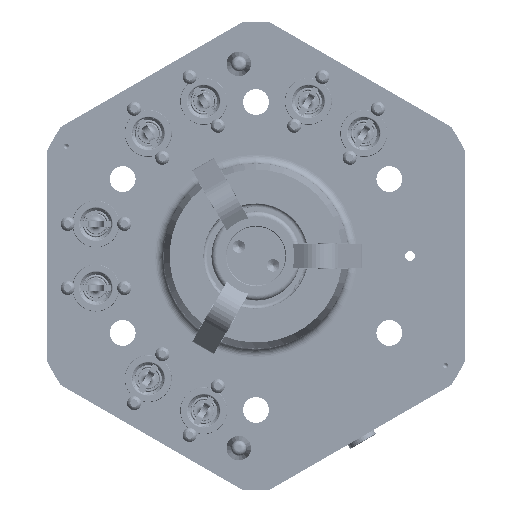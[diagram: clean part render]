
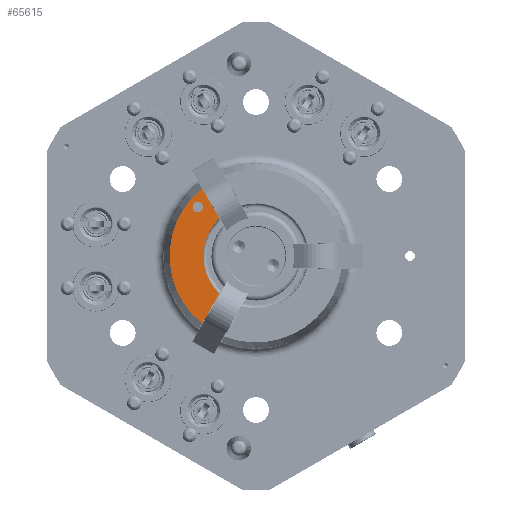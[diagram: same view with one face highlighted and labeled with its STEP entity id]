
A CAD part, front view. The second image highlights one B-rep face of the part: STEP entity #65615.
In plain terms, the highlighted planar face has unit normal (0, -1, 0).
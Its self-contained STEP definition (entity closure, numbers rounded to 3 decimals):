
#1206 = VERTEX_POINT ( 'NONE', #78912 ) ;
#5314 = CARTESIAN_POINT ( 'NONE',  ( 0., -44.5, 0. ) ) ;
#8685 = VERTEX_POINT ( 'NONE', #77509 ) ;
#9846 = VERTEX_POINT ( 'NONE', #61652 ) ;
#10148 = LINE ( 'NONE', #35041, #45201 ) ;
#14654 = ORIENTED_EDGE ( 'NONE', *, *, #47982, .F. ) ;
#15044 = CARTESIAN_POINT ( 'NONE',  ( -14.902, -44.5, -15.31 ) ) ;
#16082 = PLANE ( 'NONE',  #53287 ) ;
#16102 = CARTESIAN_POINT ( 'NONE',  ( -23.624, -44.5, 22.018 ) ) ;
#18540 = AXIS2_PLACEMENT_3D ( 'NONE', #38000, #75197, #32685 ) ;
#18795 = EDGE_CURVE ( 'NONE', #8685, #24832, #60097, .T. ) ;
#20819 = EDGE_CURVE ( 'NONE', #1206, #9846, #43289, .T. ) ;
#20996 = FACE_BOUND ( 'NONE', #74879, .T. ) ;
#22802 = CARTESIAN_POINT ( 'NONE',  ( -23.624, -44.5, 19.918 ) ) ;
#22804 = DIRECTION ( 'NONE',  ( 0.5, 0., -0.866 ) ) ;
#23428 = EDGE_CURVE ( 'NONE', #1206, #8685, #10148, .T. ) ;
#24832 = VERTEX_POINT ( 'NONE', #46310 ) ;
#25651 = DIRECTION ( 'NONE',  ( 0., 0., -1. ) ) ;
#28115 = ORIENTED_EDGE ( 'NONE', *, *, #64841, .F. ) ;
#28477 = DIRECTION ( 'NONE',  ( -0.5, 0., -0.866 ) ) ;
#28945 = CARTESIAN_POINT ( 'NONE',  ( -23.624, -44.5, 17.818 ) ) ;
#29040 = CARTESIAN_POINT ( 'NONE',  ( -23.624, -44.5, 19.918 ) ) ;
#32685 = DIRECTION ( 'NONE',  ( 0., 0., -1. ) ) ;
#34037 = DIRECTION ( 'NONE',  ( 0., 0., -1. ) ) ;
#35041 = CARTESIAN_POINT ( 'NONE',  ( -14.902, -44.5, 15.31 ) ) ;
#36588 = AXIS2_PLACEMENT_3D ( 'NONE', #5314, #63607, #25651 ) ;
#38000 = CARTESIAN_POINT ( 'NONE',  ( 0., -44.5, 0. ) ) ;
#40347 = DIRECTION ( 'NONE',  ( 0., 0., -1. ) ) ;
#43289 = CIRCLE ( 'NONE', #18540, 35.104 ) ;
#45201 = VECTOR ( 'NONE', #22804, 1000. ) ;
#46310 = CARTESIAN_POINT ( 'NONE',  ( -14.902, -44.5, -15.31 ) ) ;
#46456 = LINE ( 'NONE', #15044, #64737 ) ;
#47412 = EDGE_CURVE ( 'NONE', #24832, #9846, #46456, .T. ) ;
#47496 = FACE_OUTER_BOUND ( 'NONE', #65908, .T. ) ;
#47833 = DIRECTION ( 'NONE',  ( 0., -1., 0. ) ) ;
#47965 = ORIENTED_EDGE ( 'NONE', *, *, #47412, .F. ) ;
#47982 = EDGE_CURVE ( 'NONE', #54332, #48223, #58323, .T. ) ;
#48223 = VERTEX_POINT ( 'NONE', #28945 ) ;
#53007 = DIRECTION ( 'NONE',  ( 0., -1., 0. ) ) ;
#53287 = AXIS2_PLACEMENT_3D ( 'NONE', #72435, #72019, #34037 ) ;
#53926 = DIRECTION ( 'NONE',  ( 0., 0., -1. ) ) ;
#54332 = VERTEX_POINT ( 'NONE', #16102 ) ;
#57458 = ORIENTED_EDGE ( 'NONE', *, *, #20819, .T. ) ;
#57800 = ORIENTED_EDGE ( 'NONE', *, *, #23428, .F. ) ;
#58323 = CIRCLE ( 'NONE', #77844, 2.1 ) ;
#60097 = CIRCLE ( 'NONE', #36588, 21.365 ) ;
#61652 = CARTESIAN_POINT ( 'NONE',  ( -21.901, -44.5, -27.434 ) ) ;
#61816 = ORIENTED_EDGE ( 'NONE', *, *, #18795, .F. ) ;
#63607 = DIRECTION ( 'NONE',  ( 0., -1., 0. ) ) ;
#64737 = VECTOR ( 'NONE', #28477, 1000. ) ;
#64841 = EDGE_CURVE ( 'NONE', #48223, #54332, #71641, .T. ) ;
#65615 = ADVANCED_FACE ( 'NONE', ( #20996, #47496 ), #16082, .T. ) ;
#65908 = EDGE_LOOP ( 'NONE', ( #57800, #57458, #47965, #61816 ) ) ;
#67746 = AXIS2_PLACEMENT_3D ( 'NONE', #22802, #53007, #40347 ) ;
#71641 = CIRCLE ( 'NONE', #67746, 2.1 ) ;
#72019 = DIRECTION ( 'NONE',  ( 0., -1., 0. ) ) ;
#72435 = CARTESIAN_POINT ( 'NONE',  ( 0., -44.5, 0. ) ) ;
#74879 = EDGE_LOOP ( 'NONE', ( #28115, #14654 ) ) ;
#75197 = DIRECTION ( 'NONE',  ( 0., -1., 0. ) ) ;
#77509 = CARTESIAN_POINT ( 'NONE',  ( -14.902, -44.5, 15.31 ) ) ;
#77844 = AXIS2_PLACEMENT_3D ( 'NONE', #29040, #47833, #53926 ) ;
#78912 = CARTESIAN_POINT ( 'NONE',  ( -21.901, -44.5, 27.434 ) ) ;
